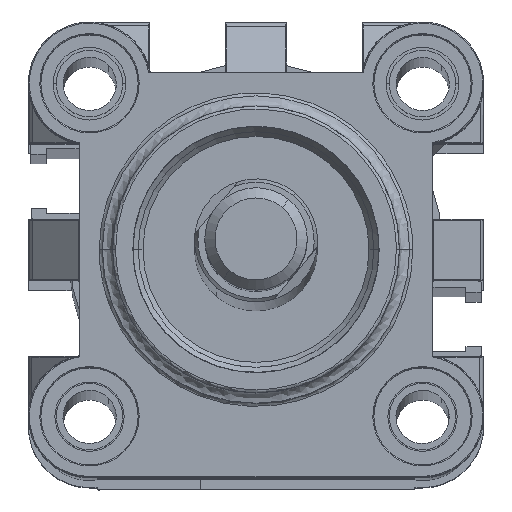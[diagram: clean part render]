
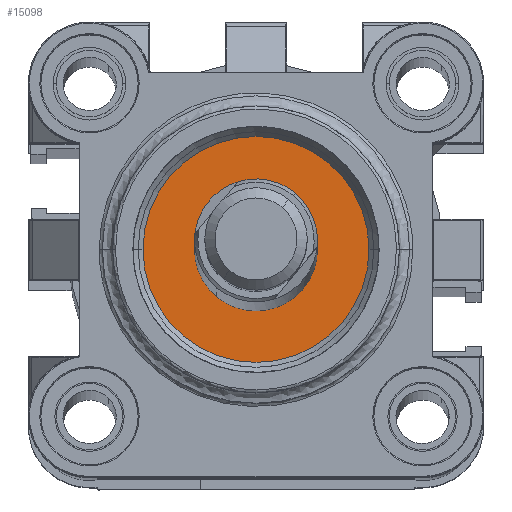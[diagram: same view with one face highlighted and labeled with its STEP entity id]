
A CAD part, top view. The second image highlights one B-rep face of the part: STEP entity #15098.
In plain terms, the highlighted planar face has unit normal (0, 0, 1).
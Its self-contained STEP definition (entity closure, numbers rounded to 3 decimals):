
#1356 = CIRCLE ( 'NONE', #18746, 11.028 ) ;
#1719 = CARTESIAN_POINT ( 'NONE',  ( 17.25, -17.25, 40.8 ) ) ;
#1884 = CIRCLE ( 'NONE', #18718, 11.028 ) ;
#2473 = ORIENTED_EDGE ( 'NONE', *, *, #5990, .T. ) ;
#2482 = ORIENTED_EDGE ( 'NONE', *, *, #17331, .F. ) ;
#3312 = DIRECTION ( 'NONE',  ( 1., 0., 0. ) ) ;
#3600 = EDGE_CURVE ( 'NONE', #10153, #17907, #1884, .T. ) ;
#3978 = CARTESIAN_POINT ( 'NONE',  ( 17.25, -17.25, 40.8 ) ) ;
#4072 = DIRECTION ( 'NONE',  ( 0., 0., 1. ) ) ;
#4087 = DIRECTION ( 'NONE',  ( 1., 0., 0. ) ) ;
#5119 = AXIS2_PLACEMENT_3D ( 'NONE', #13678, #15744, #6064 ) ;
#5199 = EDGE_CURVE ( 'NONE', #5697, #17303, #14419, .T. ) ;
#5697 = VERTEX_POINT ( 'NONE', #9260 ) ;
#5957 = CARTESIAN_POINT ( 'NONE',  ( 28.278, -17.25, 40.8 ) ) ;
#5990 = EDGE_CURVE ( 'NONE', #17907, #10153, #1356, .T. ) ;
#6064 = DIRECTION ( 'NONE',  ( 1., 0., 0. ) ) ;
#6175 = FACE_BOUND ( 'NONE', #8430, .T. ) ;
#6409 = DIRECTION ( 'NONE',  ( 0., 0., 1. ) ) ;
#7174 = CARTESIAN_POINT ( 'NONE',  ( 17.25, -17.25, 40.8 ) ) ;
#7658 = DIRECTION ( 'NONE',  ( 1., 0., 0. ) ) ;
#8430 = EDGE_LOOP ( 'NONE', ( #9264, #2482 ) ) ;
#9260 = CARTESIAN_POINT ( 'NONE',  ( 23.25, -17.25, 40.8 ) ) ;
#9264 = ORIENTED_EDGE ( 'NONE', *, *, #5199, .F. ) ;
#10153 = VERTEX_POINT ( 'NONE', #13208 ) ;
#12945 = DIRECTION ( 'NONE',  ( 0., 0., 1. ) ) ;
#13208 = CARTESIAN_POINT ( 'NONE',  ( 6.222, -17.25, 40.8 ) ) ;
#13678 = CARTESIAN_POINT ( 'NONE',  ( 17.25, -17.25, 40.8 ) ) ;
#13816 = AXIS2_PLACEMENT_3D ( 'NONE', #1719, #12945, #3312 ) ;
#14419 = CIRCLE ( 'NONE', #15214, 6. ) ;
#14492 = CIRCLE ( 'NONE', #13816, 6. ) ;
#14590 = ORIENTED_EDGE ( 'NONE', *, *, #3600, .T. ) ;
#15098 = ADVANCED_FACE ( 'NONE', ( #19075, #6175 ), #20585, .T. ) ;
#15214 = AXIS2_PLACEMENT_3D ( 'NONE', #7174, #6409, #7658 ) ;
#15744 = DIRECTION ( 'NONE',  ( 0., 0., 1. ) ) ;
#17303 = VERTEX_POINT ( 'NONE', #17763 ) ;
#17331 = EDGE_CURVE ( 'NONE', #17303, #5697, #14492, .T. ) ;
#17763 = CARTESIAN_POINT ( 'NONE',  ( 11.25, -17.25, 40.8 ) ) ;
#17907 = VERTEX_POINT ( 'NONE', #5957 ) ;
#18718 = AXIS2_PLACEMENT_3D ( 'NONE', #3978, #4072, #4087 ) ;
#18746 = AXIS2_PLACEMENT_3D ( 'NONE', #19898, #19942, #20051 ) ;
#19075 = FACE_OUTER_BOUND ( 'NONE', #20040, .T. ) ;
#19898 = CARTESIAN_POINT ( 'NONE',  ( 17.25, -17.25, 40.8 ) ) ;
#19942 = DIRECTION ( 'NONE',  ( 0., 0., 1. ) ) ;
#20040 = EDGE_LOOP ( 'NONE', ( #2473, #14590 ) ) ;
#20051 = DIRECTION ( 'NONE',  ( 1., 0., 0. ) ) ;
#20585 = PLANE ( 'NONE',  #5119 ) ;
